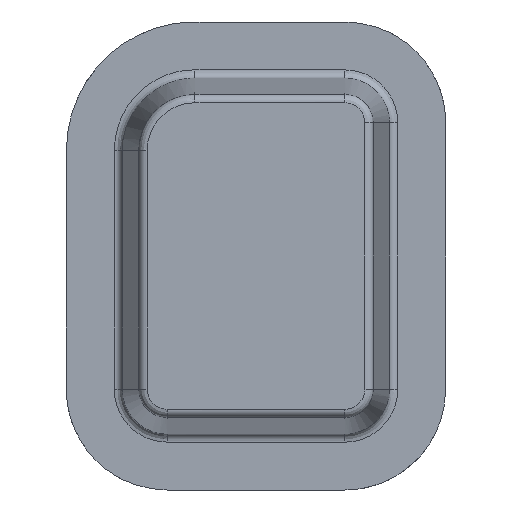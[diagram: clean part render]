
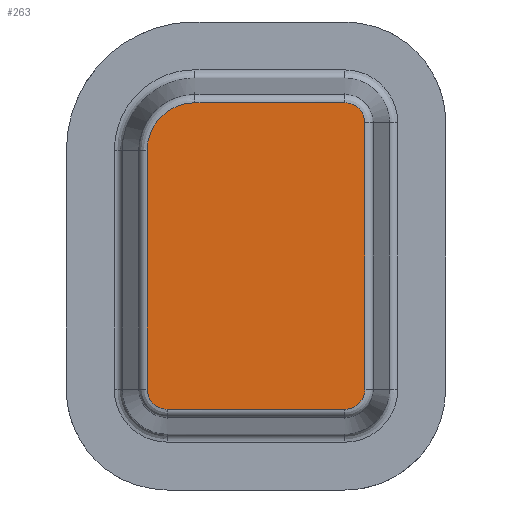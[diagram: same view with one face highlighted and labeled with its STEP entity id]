
A CAD part, front view. The second image highlights one B-rep face of the part: STEP entity #263.
In plain terms, the highlighted planar face has unit normal (0, -1, 0).
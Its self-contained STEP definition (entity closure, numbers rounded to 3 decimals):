
#144=CARTESIAN_POINT('Axis2P3D Location',(43.08,0.,56.92)) ;
#149=CARTESIAN_POINT('Line Origine',(2.749,0.,53.)) ;
#153=CARTESIAN_POINT('Vertex',(2.749,0.,96.)) ;
#155=CARTESIAN_POINT('Vertex',(2.749,0.,10.)) ;
#159=CARTESIAN_POINT('Control Point',(2.749,0.,10.)) ;
#160=CARTESIAN_POINT('Control Point',(2.749,0.,9.039)) ;
#161=CARTESIAN_POINT('Control Point',(2.908,0.,8.077)) ;
#162=CARTESIAN_POINT('Control Point',(3.227,0.,7.153)) ;
#163=CARTESIAN_POINT('Control Point',(4.157,0.,5.443)) ;
#164=CARTESIAN_POINT('Control Point',(5.588,0.,4.125)) ;
#165=CARTESIAN_POINT('Control Point',(6.408,0.,3.591)) ;
#166=CARTESIAN_POINT('Control Point',(7.598,0.,3.072)) ;
#167=CARTESIAN_POINT('Control Point',(8.859,0.,2.829)) ;
#168=CARTESIAN_POINT('Control Point',(9.177,0.,2.785)) ;
#169=CARTESIAN_POINT('Control Point',(9.534,0.,2.756)) ;
#170=CARTESIAN_POINT('Control Point',(9.891,0.,2.75)) ;
#171=CARTESIAN_POINT('Control Point',(9.927,0.,2.749)) ;
#172=CARTESIAN_POINT('Control Point',(9.964,0.,2.749)) ;
#173=CARTESIAN_POINT('Control Point',(10.,0.,2.749)) ;
#174=CARTESIAN_POINT('Vertex',(10.,0.,2.749)) ;
#177=CARTESIAN_POINT('Line Origine',(42.,0.,2.749)) ;
#181=CARTESIAN_POINT('Vertex',(74.,0.,2.749)) ;
#185=CARTESIAN_POINT('Control Point',(74.,0.,2.749)) ;
#186=CARTESIAN_POINT('Control Point',(74.961,0.,2.749)) ;
#187=CARTESIAN_POINT('Control Point',(75.923,0.,2.908)) ;
#188=CARTESIAN_POINT('Control Point',(76.847,0.,3.227)) ;
#189=CARTESIAN_POINT('Control Point',(78.557,0.,4.157)) ;
#190=CARTESIAN_POINT('Control Point',(79.875,0.,5.588)) ;
#191=CARTESIAN_POINT('Control Point',(80.409,0.,6.408)) ;
#192=CARTESIAN_POINT('Control Point',(80.928,0.,7.598)) ;
#193=CARTESIAN_POINT('Control Point',(81.171,0.,8.859)) ;
#194=CARTESIAN_POINT('Control Point',(81.215,0.,9.177)) ;
#195=CARTESIAN_POINT('Control Point',(81.244,0.,9.534)) ;
#196=CARTESIAN_POINT('Control Point',(81.25,0.,9.891)) ;
#197=CARTESIAN_POINT('Control Point',(81.251,0.,9.927)) ;
#198=CARTESIAN_POINT('Control Point',(81.251,0.,9.964)) ;
#199=CARTESIAN_POINT('Control Point',(81.251,0.,10.)) ;
#200=CARTESIAN_POINT('Vertex',(81.251,0.,10.)) ;
#203=CARTESIAN_POINT('Line Origine',(81.251,0.,58.)) ;
#207=CARTESIAN_POINT('Vertex',(81.251,0.,106.)) ;
#211=CARTESIAN_POINT('Control Point',(81.251,0.,106.)) ;
#212=CARTESIAN_POINT('Control Point',(81.251,0.,106.961)) ;
#213=CARTESIAN_POINT('Control Point',(81.092,0.,107.923)) ;
#214=CARTESIAN_POINT('Control Point',(80.773,0.,108.847)) ;
#215=CARTESIAN_POINT('Control Point',(79.843,0.,110.557)) ;
#216=CARTESIAN_POINT('Control Point',(78.412,0.,111.875)) ;
#217=CARTESIAN_POINT('Control Point',(77.592,0.,112.409)) ;
#218=CARTESIAN_POINT('Control Point',(76.402,0.,112.928)) ;
#219=CARTESIAN_POINT('Control Point',(75.141,0.,113.171)) ;
#220=CARTESIAN_POINT('Control Point',(74.823,0.,113.215)) ;
#221=CARTESIAN_POINT('Control Point',(74.466,0.,113.244)) ;
#222=CARTESIAN_POINT('Control Point',(74.109,0.,113.25)) ;
#223=CARTESIAN_POINT('Control Point',(74.073,0.,113.251)) ;
#224=CARTESIAN_POINT('Control Point',(74.036,0.,113.251)) ;
#225=CARTESIAN_POINT('Control Point',(74.,0.,113.251)) ;
#226=CARTESIAN_POINT('Vertex',(74.,0.,113.251)) ;
#229=CARTESIAN_POINT('Line Origine',(47.,0.,113.251)) ;
#233=CARTESIAN_POINT('Vertex',(20.,0.,113.251)) ;
#237=CARTESIAN_POINT('Control Point',(20.,0.,113.251)) ;
#238=CARTESIAN_POINT('Control Point',(18.077,0.,113.251)) ;
#239=CARTESIAN_POINT('Control Point',(16.154,0.,112.983)) ;
#240=CARTESIAN_POINT('Control Point',(14.282,0.,112.447)) ;
#241=CARTESIAN_POINT('Control Point',(10.736,0.,110.869)) ;
#242=CARTESIAN_POINT('Control Point',(7.758,0.,108.383)) ;
#243=CARTESIAN_POINT('Control Point',(6.451,0.,106.938)) ;
#244=CARTESIAN_POINT('Control Point',(4.493,0.,104.045)) ;
#245=CARTESIAN_POINT('Control Point',(3.313,0.,100.768)) ;
#246=CARTESIAN_POINT('Control Point',(2.954,0.,99.259)) ;
#247=CARTESIAN_POINT('Control Point',(2.762,0.,97.685)) ;
#248=CARTESIAN_POINT('Control Point',(2.749,0.,96.109)) ;
#249=CARTESIAN_POINT('Control Point',(2.749,0.,96.073)) ;
#250=CARTESIAN_POINT('Control Point',(2.749,0.,96.036)) ;
#251=CARTESIAN_POINT('Control Point',(2.749,0.,96.)) ;
#145=DIRECTION('Axis2P3D Direction',(0.,-1.,0.)) ;
#146=DIRECTION('Axis2P3D XDirection',(0.087,0.,0.996)) ;
#150=DIRECTION('Vector Direction',(0.,0.,1.)) ;
#178=DIRECTION('Vector Direction',(1.,0.,0.)) ;
#204=DIRECTION('Vector Direction',(0.,0.,1.)) ;
#230=DIRECTION('Vector Direction',(-1.,0.,0.)) ;
#147=AXIS2_PLACEMENT_3D('Plane Axis2P3D',#144,#145,#146) ;
#254=ORIENTED_EDGE('',*,*,#157,.T.) ;
#255=ORIENTED_EDGE('',*,*,#176,.T.) ;
#256=ORIENTED_EDGE('',*,*,#183,.T.) ;
#257=ORIENTED_EDGE('',*,*,#202,.T.) ;
#258=ORIENTED_EDGE('',*,*,#209,.T.) ;
#259=ORIENTED_EDGE('',*,*,#228,.T.) ;
#260=ORIENTED_EDGE('',*,*,#235,.T.) ;
#261=ORIENTED_EDGE('',*,*,#252,.T.) ;
#151=VECTOR('Line Direction',#150,1.) ;
#179=VECTOR('Line Direction',#178,1.) ;
#205=VECTOR('Line Direction',#204,1.) ;
#231=VECTOR('Line Direction',#230,1.) ;
#263=ADVANCED_FACE('base',(#262),#148,.T.) ;
#158=B_SPLINE_CURVE_WITH_KNOTS('',5,(#159,#160,#161,#162,#163,#164,#165,#166,#167,#168,#169,#170,#171,#172,#173),.UNSPECIFIED.,.F.,.U.,(6,3,3,3,6),(28.663,38.857,49.056,52.455,52.841),.UNSPECIFIED.) ;
#184=B_SPLINE_CURVE_WITH_KNOTS('',5,(#185,#186,#187,#188,#189,#190,#191,#192,#193,#194,#195,#196,#197,#198,#199),.UNSPECIFIED.,.F.,.U.,(6,3,3,3,6),(28.663,38.857,49.056,52.455,52.841),.UNSPECIFIED.) ;
#210=B_SPLINE_CURVE_WITH_KNOTS('',5,(#211,#212,#213,#214,#215,#216,#217,#218,#219,#220,#221,#222,#223,#224,#225),.UNSPECIFIED.,.F.,.U.,(6,3,3,3,6),(28.663,38.857,49.056,52.455,52.841),.UNSPECIFIED.) ;
#236=B_SPLINE_CURVE_WITH_KNOTS('',5,(#237,#238,#239,#240,#241,#242,#243,#244,#245,#246,#247,#248,#249,#250,#251),.UNSPECIFIED.,.F.,.U.,(6,3,3,3,6),(40.689,56.892,73.116,86.085,86.393),.UNSPECIFIED.) ;
#157=EDGE_CURVE('',#154,#156,#152,.F.) ;
#176=EDGE_CURVE('',#156,#175,#158,.T.) ;
#183=EDGE_CURVE('',#175,#182,#180,.T.) ;
#202=EDGE_CURVE('',#182,#201,#184,.T.) ;
#209=EDGE_CURVE('',#201,#208,#206,.T.) ;
#228=EDGE_CURVE('',#208,#227,#210,.T.) ;
#235=EDGE_CURVE('',#227,#234,#232,.T.) ;
#252=EDGE_CURVE('',#234,#154,#236,.T.) ;
#253=EDGE_LOOP('',(#254,#255,#256,#257,#258,#259,#260,#261)) ;
#262=FACE_OUTER_BOUND('',#253,.T.) ;
#152=LINE('Line',#149,#151) ;
#180=LINE('Line',#177,#179) ;
#206=LINE('Line',#203,#205) ;
#232=LINE('Line',#229,#231) ;
#148=PLANE('',#147) ;
#154=VERTEX_POINT('',#153) ;
#156=VERTEX_POINT('',#155) ;
#175=VERTEX_POINT('',#174) ;
#182=VERTEX_POINT('',#181) ;
#201=VERTEX_POINT('',#200) ;
#208=VERTEX_POINT('',#207) ;
#227=VERTEX_POINT('',#226) ;
#234=VERTEX_POINT('',#233) ;
